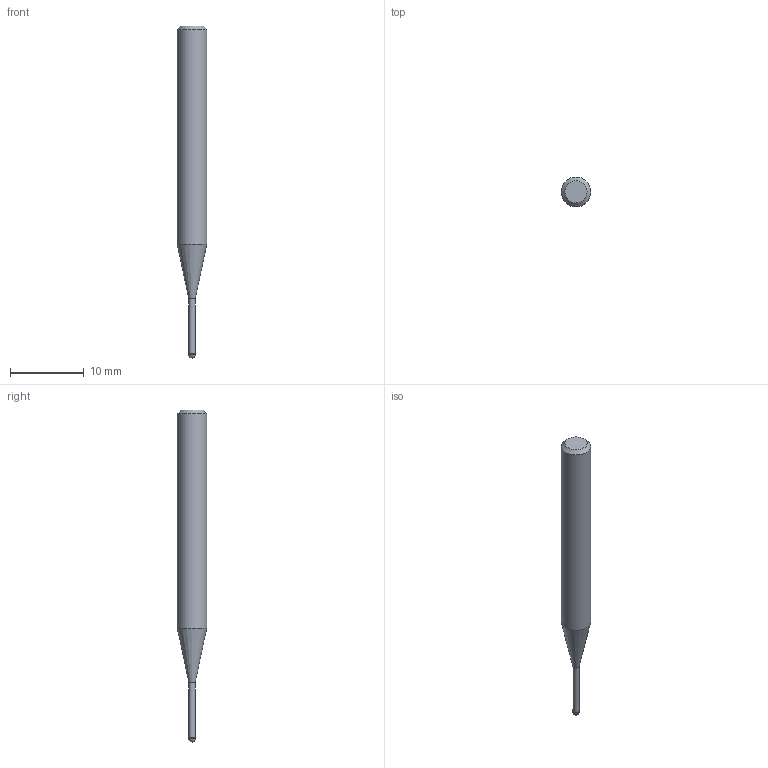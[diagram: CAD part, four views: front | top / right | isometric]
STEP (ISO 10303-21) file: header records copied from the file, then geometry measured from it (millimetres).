
FILE_DESCRIPTION((''),'2;1');
FILE_NAME('C:\Users\nsx150\AppData\Local\Temp\Mastercam 2021\ARV7HD45SN\TEMP.step','2023-06-13T16:35:10',(''),(''),'STEP Write','Mastercam 2021 ... CNC Software, Inc.','');
FILE_SCHEMA(('AUTOMOTIVE_DESIGN'));
Length unit declared in the file: millimetre
Products named in the file (1): None
Bounding box: 4 x 4 x 45 mm (x, y, z)
Volume: 414.3 mm3; surface area: 461.3 mm2
Topology: 2 solids, 2 shells, 9 faces, 14 edges, 8 vertices
Faces by surface type: plane 3, cylinder 3, cone 2, sphere 1
Full cylindrical faces by diameter (mm): 0.86 x1, 0.9 x1, 4 x1
Entity records: 211 total; most frequent: DIRECTION 36, CARTESIAN_POINT 25, AXIS2_PLACEMENT_3D 18, ORIENTED_EDGE 14, EDGE_LOOP 14, STYLED_ITEM 12, ADVANCED_FACE 9, FACE_BOUND 8
